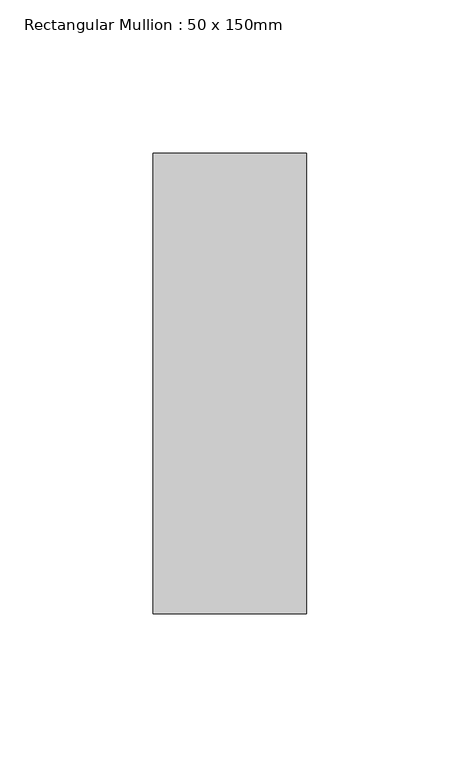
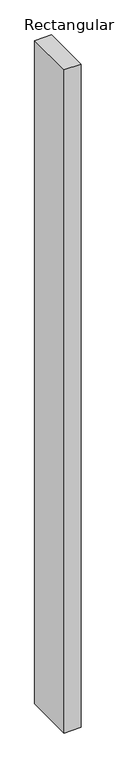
"""IFC4 building model written with IfcOpenShell, lengths in millimetres: member geometry, Rectangular Mullion : 50 x 150mm."""

from ifc_helpers import new_model, si_unit, frame, origin, place, context, project, spatial, polyline, outline, extrude, source, transform, mapped, element, save


def rectangular_mullion_50_x_150mm_47c0eb49(model_context):
    return source(origin(), model_context, "Body", "SweptSolid", [
        extrude(outline(polyline([(25.0, 75.0), (25.0, -75.0), (-25.0, -75.0), (-25.0, 75.0), (25.0, 75.0)])), frame((0.0, 0.0, -2058.0), z_axis=(0.0, 0.0, 1.0), x_axis=(1.0, 0.0, 0.0)), (0.0, 0.0, 1.0), 2058.0),
    ])


if __name__ == "__main__":
    model = new_model("IFC4")
    model_context = context("Model", 3, world=origin())
    ifc_project = project(units=[si_unit("LENGTHUNIT", "METRE", prefix="MILLI")], contexts=[model_context])
    site = spatial("IfcSite", under=ifc_project)
    building = spatial("IfcBuilding", under=site)
    placement = place(None, origin())
    rectangular_mullion_50_x_150mm_shape = rectangular_mullion_50_x_150mm_47c0eb49(model_context)
    element("IfcMember", 1, ObjectType="Rectangular Mullion : 50 x 150mm", at=placement, inside=building, context=model_context, shape_type="MappedRepresentation", body=[
        mapped(rectangular_mullion_50_x_150mm_shape, transform((0.0, 0.0, 0.0), x_axis=(1.0, 0.0, 0.0), y_axis=(0.0, 1.0, 0.0), z_axis=(0.0, 0.0, 1.0))),
    ])
    save(model, "model.ifc")
